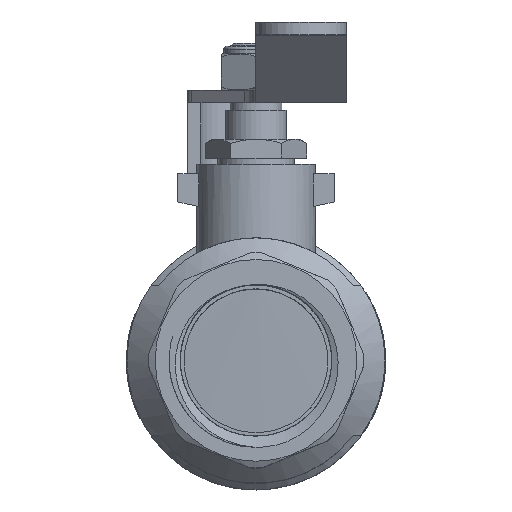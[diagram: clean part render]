
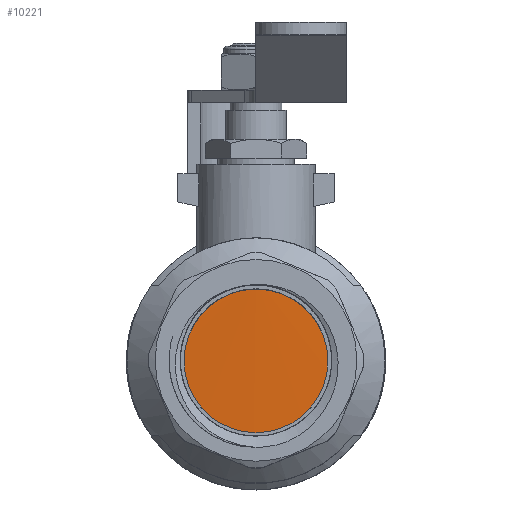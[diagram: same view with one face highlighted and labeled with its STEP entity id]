
A CAD part, top view. The second image highlights one B-rep face of the part: STEP entity #10221.
In plain terms, the highlighted cylindrical face has radius 13.319 mm (diameter 26.637 mm), a full revolution.
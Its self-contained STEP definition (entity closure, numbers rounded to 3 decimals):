
#885=FACE_OUTER_BOUND('',#1488,.T.);
#1488=EDGE_LOOP('',(#6859,#6860,#6861));
#2156=B_SPLINE_CURVE_WITH_KNOTS('',3,(#13536,#13537,#13538,#13539,#13540,
#13541,#13542,#13543,#13544,#13545,#13546,#13547,#13548,#13549,#13550,#13551,
#13552,#13553,#13554,#13555,#13556,#13557,#13558,#13559,#13560,#13561,#13562,
#13563,#13564,#13565,#13566,#13567,#13568,#13569,#13570,#13571,#13572,#13573,
#13574,#13575,#13576,#13577,#13578),.UNSPECIFIED.,.F.,.F.,(4,3,3,3,3,3,
3,3,3,3,3,3,3,3,4),(-50.265,-49.975,-49.482,
-48.989,-48.496,-48.003,-47.51,
-47.017,-46.524,-46.031,-45.538,
-45.045,-44.552,-44.059,-43.982),
 .UNSPECIFIED.);
#2731=LINE('',#13533,#3447);
#2732=LINE('',#13535,#3448);
#3447=VECTOR('',#11487,13.319);
#3448=VECTOR('',#11488,13.319);
#4165=VERTEX_POINT('',#13531);
#4166=VERTEX_POINT('',#13532);
#4167=VERTEX_POINT('',#13534);
#5241=EDGE_CURVE('',#4165,#4166,#2731,.T.);
#5242=EDGE_CURVE('',#4165,#4167,#2732,.T.);
#5243=EDGE_CURVE('',#4167,#4166,#2156,.T.);
#6859=ORIENTED_EDGE('',*,*,#5241,.F.);
#6860=ORIENTED_EDGE('',*,*,#5242,.T.);
#6861=ORIENTED_EDGE('',*,*,#5243,.T.);
#10091=CYLINDRICAL_SURFACE('',#10845,13.319);
#10221=ADVANCED_FACE('',(#885),#10091,.T.);
#10845=AXIS2_PLACEMENT_3D('',#13530,#11485,#11486);
#11485=DIRECTION('center_axis',(0.,0.,-1.));
#11486=DIRECTION('ref_axis',(0.,-1.,0.));
#11487=DIRECTION('',(0.,0.,-1.));
#11488=DIRECTION('',(0.,0.,1.));
#13530=CARTESIAN_POINT('Origin',(0.,0.,-34.3));
#13531=CARTESIAN_POINT('',(0.,13.319,-30.6));
#13532=CARTESIAN_POINT('',(0.,13.319,-32.3));
#13533=CARTESIAN_POINT('',(0.,13.319,-34.3));
#13534=CARTESIAN_POINT('',(0.,13.319,-30.5));
#13535=CARTESIAN_POINT('',(0.,13.319,-34.3));
#13536=CARTESIAN_POINT('Ctrl Pts',(0.,13.318,
-30.5));
#13537=CARTESIAN_POINT('Ctrl Pts',(1.291,13.317,-30.528));
#13538=CARTESIAN_POINT('Ctrl Pts',(2.583,13.13,-30.556));
#13539=CARTESIAN_POINT('Ctrl Pts',(3.82,12.76,-30.583));
#13540=CARTESIAN_POINT('Ctrl Pts',(5.916,12.133,-30.63));
#13541=CARTESIAN_POINT('Ctrl Pts',(7.854,10.978,-30.677));
#13542=CARTESIAN_POINT('Ctrl Pts',(9.404,9.433,-30.725));
#13543=CARTESIAN_POINT('Ctrl Pts',(10.954,7.888,-30.772));
#13544=CARTESIAN_POINT('Ctrl Pts',(12.114,5.953,-30.819));
#13545=CARTESIAN_POINT('Ctrl Pts',(12.748,3.859,-30.866));
#13546=CARTESIAN_POINT('Ctrl Pts',(13.382,1.765,-30.913));
#13547=CARTESIAN_POINT('Ctrl Pts',(13.489,-0.489,
-30.96));
#13548=CARTESIAN_POINT('Ctrl Pts',(13.057,-2.634,-31.007));
#13549=CARTESIAN_POINT('Ctrl Pts',(12.624,-4.778,-31.054));
#13550=CARTESIAN_POINT('Ctrl Pts',(11.652,-6.814,-31.101));
#13551=CARTESIAN_POINT('Ctrl Pts',(10.256,-8.499,-31.148));
#13552=CARTESIAN_POINT('Ctrl Pts',(8.86,-10.184,-31.195));
#13553=CARTESIAN_POINT('Ctrl Pts',(7.04,-11.517,-31.242));
#13554=CARTESIAN_POINT('Ctrl Pts',(5.012,-12.341,-31.289));
#13555=CARTESIAN_POINT('Ctrl Pts',(2.985,-13.164,-31.337));
#13556=CARTESIAN_POINT('Ctrl Pts',(0.751,-13.477,
-31.384));
#13557=CARTESIAN_POINT('Ctrl Pts',(-1.425,-13.243,-31.431));
#13558=CARTESIAN_POINT('Ctrl Pts',(-3.6,-13.009,
-31.478));
#13559=CARTESIAN_POINT('Ctrl Pts',(-5.717,-12.228,-31.525));
#13560=CARTESIAN_POINT('Ctrl Pts',(-7.522,-10.992,
-31.572));
#13561=CARTESIAN_POINT('Ctrl Pts',(-9.328,-9.756,
-31.619));
#13562=CARTESIAN_POINT('Ctrl Pts',(-10.823,-8.066,
-31.666));
#13563=CARTESIAN_POINT('Ctrl Pts',(-11.829,-6.123,
-31.713));
#13564=CARTESIAN_POINT('Ctrl Pts',(-12.835,-4.18,
-31.76));
#13565=CARTESIAN_POINT('Ctrl Pts',(-13.352,-1.984,-31.807));
#13566=CARTESIAN_POINT('Ctrl Pts',(-13.318,0.204,
-31.854));
#13567=CARTESIAN_POINT('Ctrl Pts',(-13.285,2.392,-31.901));
#13568=CARTESIAN_POINT('Ctrl Pts',(-12.701,4.571,-31.949));
#13569=CARTESIAN_POINT('Ctrl Pts',(-11.636,6.482,-31.996));
#13570=CARTESIAN_POINT('Ctrl Pts',(-10.571,8.394,-32.043));
#13571=CARTESIAN_POINT('Ctrl Pts',(-9.025,10.037,-32.09));
#13572=CARTESIAN_POINT('Ctrl Pts',(-7.182,11.217,-32.137));
#13573=CARTESIAN_POINT('Ctrl Pts',(-5.34,12.397,-32.184));
#13574=CARTESIAN_POINT('Ctrl Pts',(-3.2,13.113,-32.231));
#13575=CARTESIAN_POINT('Ctrl Pts',(-1.019,13.281,-32.278));
#13576=CARTESIAN_POINT('Ctrl Pts',(-0.68,13.307,-32.285));
#13577=CARTESIAN_POINT('Ctrl Pts',(-0.34,13.319,
-32.293));
#13578=CARTESIAN_POINT('Ctrl Pts',(0.,13.319,
-32.3));
